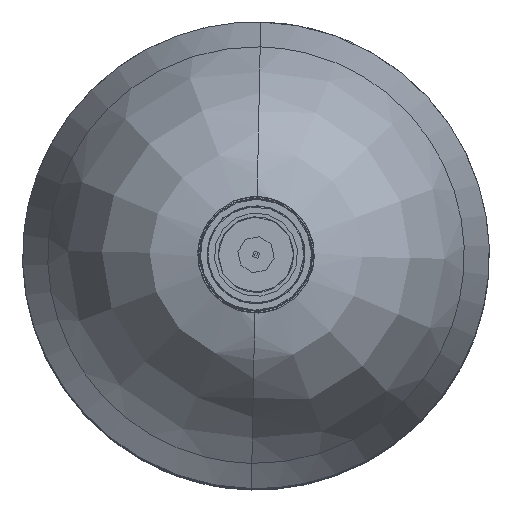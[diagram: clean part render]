
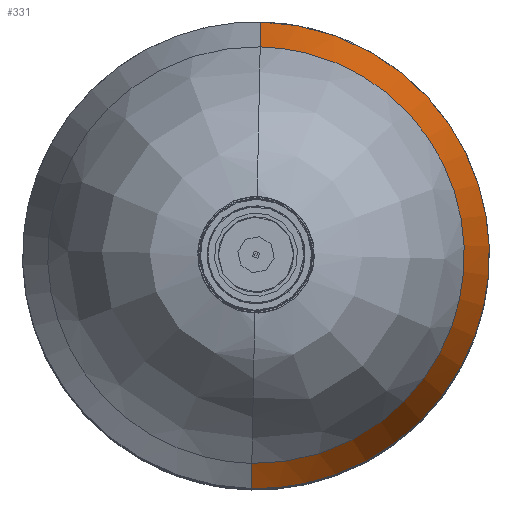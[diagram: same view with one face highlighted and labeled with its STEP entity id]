
A CAD part, top view. The second image highlights one B-rep face of the part: STEP entity #331.
In plain terms, the highlighted free-form (B-spline) face has degree [1, 2] with [2, 5] control points.
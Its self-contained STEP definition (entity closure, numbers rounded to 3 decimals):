
#331=ADVANCED_FACE('',(#665),#4507,.T.);
#665=FACE_OUTER_BOUND('',#988,.T.);
#988=EDGE_LOOP('',(#1747,#1748,#1749,#1750));
#1747=ORIENTED_EDGE('',*,*,#2898,.T.);
#1748=ORIENTED_EDGE('',*,*,#2877,.F.);
#1749=ORIENTED_EDGE('',*,*,#2887,.F.);
#1750=ORIENTED_EDGE('',*,*,#2884,.F.);
#2877=EDGE_CURVE('',#4230,#4229,#3696,.T.);
#2884=EDGE_CURVE('',#4234,#4235,#3703,.T.);
#2887=EDGE_CURVE('',#4235,#4230,#3706,.T.);
#2898=EDGE_CURVE('',#4234,#4229,#3715,.T.);
#3696=(
BOUNDED_CURVE()
B_SPLINE_CURVE(2,(#8177,#8178,#8179,#8180,#8181),.UNSPECIFIED.,.F.,.F.)
B_SPLINE_CURVE_WITH_KNOTS((3,2,3),(-4.712,-3.142,-1.571),
 .UNSPECIFIED.)
CURVE()
GEOMETRIC_REPRESENTATION_ITEM()
RATIONAL_B_SPLINE_CURVE((1.,0.707,1.,0.707,1.))
REPRESENTATION_ITEM('')
);
#3703=(
BOUNDED_CURVE()
B_SPLINE_CURVE(2,(#8207,#8208,#8209,#8210,#8211),.UNSPECIFIED.,.F.,.F.)
B_SPLINE_CURVE_WITH_KNOTS((3,2,3),(-3.142,-1.571,0.),
 .UNSPECIFIED.)
CURVE()
GEOMETRIC_REPRESENTATION_ITEM()
RATIONAL_B_SPLINE_CURVE((1.,0.707,1.,0.707,
1.))
REPRESENTATION_ITEM('')
);
#3706=(
BOUNDED_CURVE()
B_SPLINE_CURVE(1,(#8222,#8223),.UNSPECIFIED.,.F.,.F.)
B_SPLINE_CURVE_WITH_KNOTS((2,2),(0.,52.747),
 .UNSPECIFIED.)
CURVE()
GEOMETRIC_REPRESENTATION_ITEM()
RATIONAL_B_SPLINE_CURVE((1.,1.))
REPRESENTATION_ITEM('')
);
#3715=(
BOUNDED_CURVE()
B_SPLINE_CURVE(1,(#8433,#8434),.UNSPECIFIED.,.F.,.F.)
B_SPLINE_CURVE_WITH_KNOTS((2,2),(0.,52.747),
 .UNSPECIFIED.)
CURVE()
GEOMETRIC_REPRESENTATION_ITEM()
RATIONAL_B_SPLINE_CURVE((1.,1.))
REPRESENTATION_ITEM('')
);
#4229=VERTEX_POINT('',#7951);
#4230=VERTEX_POINT('',#7952);
#4234=VERTEX_POINT('',#7956);
#4235=VERTEX_POINT('',#7957);
#4507=(
BOUNDED_SURFACE()
B_SPLINE_SURFACE(1,2,((#7757,#7758,#7759,#7760,#7761),(#7762,#7763,#7764,
#7765,#7766)),.UNSPECIFIED.,.F.,.F.,.F.)
B_SPLINE_SURFACE_WITH_KNOTS((2,2),(3,2,3),(0.,52.747),
(480.723,721.085,961.447),.UNSPECIFIED.)
GEOMETRIC_REPRESENTATION_ITEM()
RATIONAL_B_SPLINE_SURFACE(((1.,0.707,1.,0.707,1.),
(1.,0.707,1.,0.707,1.)))
REPRESENTATION_ITEM('')
SURFACE()
);
#7757=CARTESIAN_POINT('',(2.408,117.439,179.114));
#7758=CARTESIAN_POINT('',(122.565,115.031,179.114));
#7759=CARTESIAN_POINT('',(120.157,-5.126,179.114));
#7760=CARTESIAN_POINT('',(117.749,-125.283,179.114));
#7761=CARTESIAN_POINT('',(-2.408,-122.875,179.114));
#7762=CARTESIAN_POINT('',(2.15,104.549,228.609));
#7763=CARTESIAN_POINT('',(109.416,102.399,228.609));
#7764=CARTESIAN_POINT('',(107.267,-4.868,228.609));
#7765=CARTESIAN_POINT('',(105.117,-112.134,228.609));
#7766=CARTESIAN_POINT('',(-2.15,-109.984,228.609));
#7951=CARTESIAN_POINT('',(2.15,104.549,228.609));
#7952=CARTESIAN_POINT('',(-2.15,-109.984,228.609));
#7956=CARTESIAN_POINT('',(2.408,117.439,179.114));
#7957=CARTESIAN_POINT('',(-2.408,-122.875,179.114));
#8177=CARTESIAN_POINT('',(-2.15,-109.984,228.609));
#8178=CARTESIAN_POINT('',(105.117,-112.134,228.609));
#8179=CARTESIAN_POINT('',(107.267,-4.868,228.609));
#8180=CARTESIAN_POINT('',(109.416,102.399,228.609));
#8181=CARTESIAN_POINT('',(2.15,104.549,228.609));
#8207=CARTESIAN_POINT('',(2.408,117.439,179.114));
#8208=CARTESIAN_POINT('',(122.565,115.031,179.114));
#8209=CARTESIAN_POINT('',(120.157,-5.126,179.114));
#8210=CARTESIAN_POINT('',(117.749,-125.283,179.114));
#8211=CARTESIAN_POINT('',(-2.408,-122.875,179.114));
#8222=CARTESIAN_POINT('',(-2.408,-122.875,179.114));
#8223=CARTESIAN_POINT('',(-2.15,-109.984,228.609));
#8433=CARTESIAN_POINT('',(2.408,117.439,179.114));
#8434=CARTESIAN_POINT('',(2.15,104.549,228.609));
